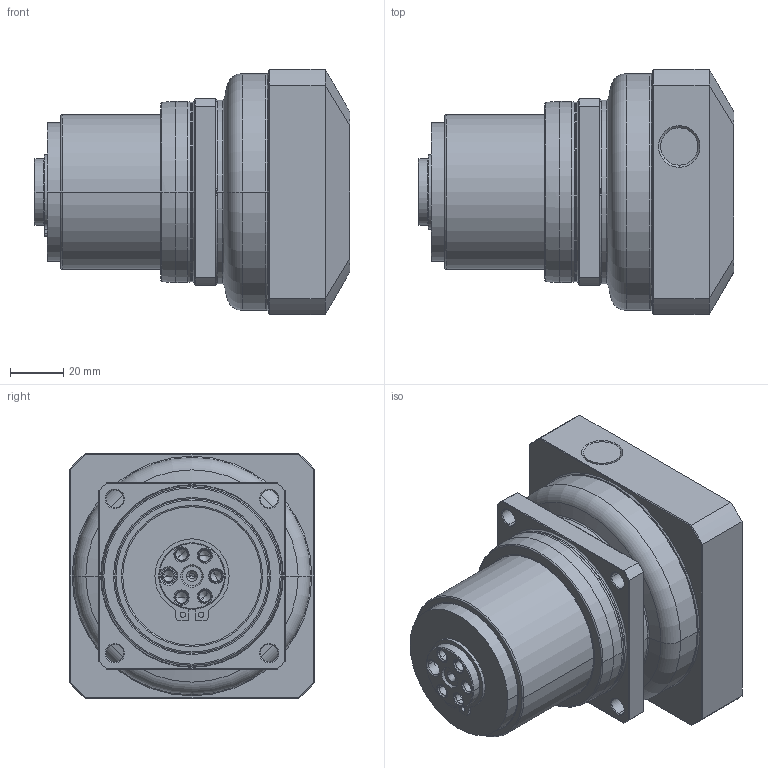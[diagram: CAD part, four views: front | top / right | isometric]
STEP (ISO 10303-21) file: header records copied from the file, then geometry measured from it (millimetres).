
FILE_DESCRIPTION((''),'2;1');
FILE_NAME('PL070_1ST_19-P0411400101_ASM','2016-05-30T',('d00435'),(''),'PRO/ENGINEER BY PARAMETRIC TECHNOLOGY CORPORATION, 2008410','PRO/ENGINEER BY PARAMETRIC TECHNOLOGY CORPORATION, 2008410','');
FILE_SCHEMA(('CONFIG_CONTROL_DESIGN'));
Length unit declared in the file: millimetre
Products named in the file (8): P0272200001; P1352200301; P0366200001; 22802000015; P0503400008; P0941203001; P0411400101; PL070_1ST_19-P0411400101_ASM
Assembly tree (7 placements, depth 2):
  PL070_1ST_19-P0411400101_ASM
    P0272200001
    P1352200301
    P0366200001
    22802000015
    P0503400008
    P0941203001
    P0411400101
Bounding box: 118.5 x 92 x 92 mm (x, y, z)
Volume: 510433.1 mm3; surface area: 108379 mm2
Topology: 7 solids, 18 shells, 404 faces, 940 edges, 565 vertices
Faces by surface type: cylinder 134, cone 108, plane 90, torus 58, bspline 14
Entity records: 16267 total; most frequent: CARTESIAN_POINT 6839, DIRECTION 2103, ORIENTED_EDGE 1792, EDGE_CURVE 918, AXIS2_PLACEMENT_3D 887, VERTEX_POINT 565, CIRCLE 476, EDGE_LOOP 461
